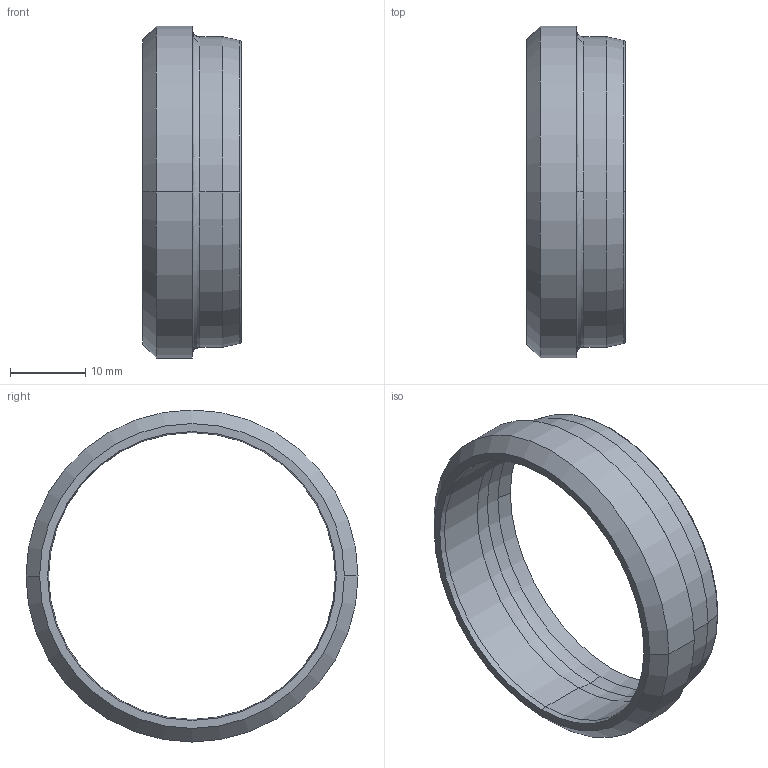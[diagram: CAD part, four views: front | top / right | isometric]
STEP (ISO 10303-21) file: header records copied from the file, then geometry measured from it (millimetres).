
FILE_DESCRIPTION((''),'2;1');
FILE_NAME('100123.stp','2006-03-06T15:08:14',('Dario Falcomer'),('CAST S.p.A.'),'AutoCAD STEP 2000i','AutoCAD 2000i',', , ');
FILE_SCHEMA(('CONFIG_CONTROL_DESIGN'));
Length unit declared in the file: millimetre
Products named in the file (2): 100123.0; 1001ESTERNO#0
Assembly tree (1 placements, depth 2):
  100123.0
    1001ESTERNO#0
Bounding box: 13.07 x 44 x 44 mm (x, y, z)
Volume: 3353.3 mm3; surface area: 3850.6 mm2
Topology: 1 solids, 1 shells, 30 faces, 71 edges, 45 vertices
Faces by surface type: cone 8, bspline 6, torus 6, cylinder 6, plane 4
Entity records: 1249 total; most frequent: CARTESIAN_POINT 412, DIRECTION 180, ORIENTED_EDGE 142, AXIS2_PLACEMENT_3D 83, EDGE_CURVE 71, CIRCLE 57, VERTEX_POINT 45, EDGE_LOOP 34
